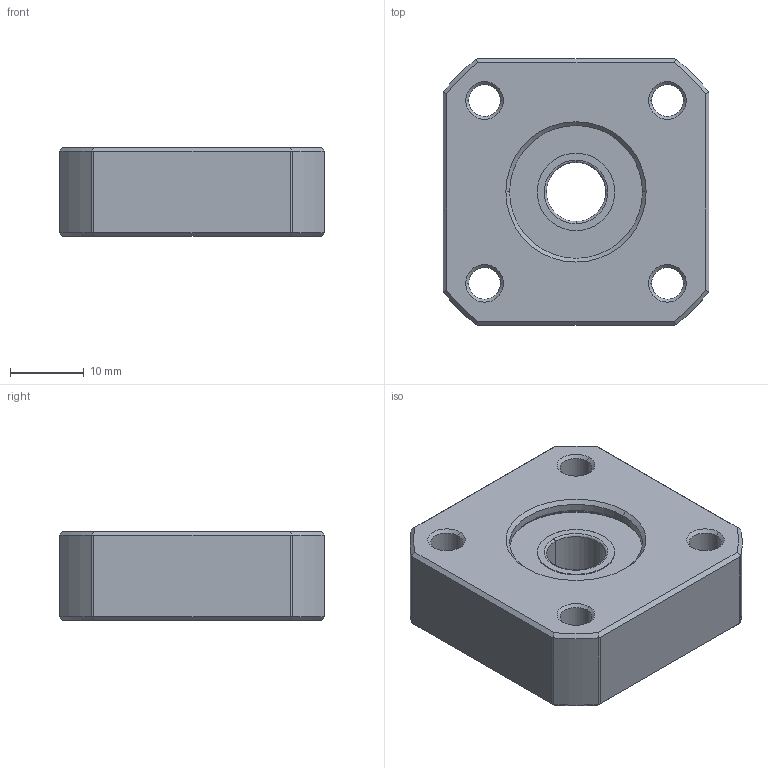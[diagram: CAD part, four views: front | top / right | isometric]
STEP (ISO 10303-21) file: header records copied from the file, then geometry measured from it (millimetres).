
FILE_DESCRIPTION (( 'STEP AP203' ), '1' );
FILE_NAME ('SBS08.STEP', '2009-05-27T05:30:04', ( '冠犁泅' ), ( '俺惯何' ), 'SwSTEP 2.0', 'SolidWorks 2007', '' );
FILE_SCHEMA (( 'CONFIG_CONTROL_DESIGN' ));
Length unit declared in the file: millimetre
Products named in the file (4): SBS08; sbs08-housing_ル遽; 608zz_ル遽; retaining ring for bore RTW-22
Assembly tree (3 placements, depth 2):
  SBS08
    608zz_ル遽
    sbs08-housing_ル遽
    retaining ring for bore RTW-22
Bounding box: 36 x 36 x 12 mm (x, y, z)
Volume: 9513.1 mm3; surface area: 8501.6 mm2
Topology: 2 solids, 12 shells, 174 faces, 439 edges, 266 vertices
Faces by surface type: cylinder 69, plane 45, bspline 30, cone 30
Entity records: 6828 total; most frequent: CARTESIAN_POINT 2477, DIRECTION 861, ORIENTED_EDGE 786, EDGE_CURVE 403, AXIS2_PLACEMENT_3D 357, VERTEX_POINT 264, EDGE_LOOP 207, CIRCLE 206
